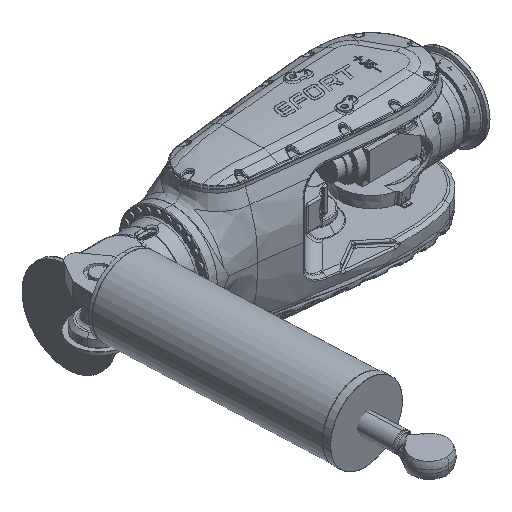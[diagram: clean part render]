
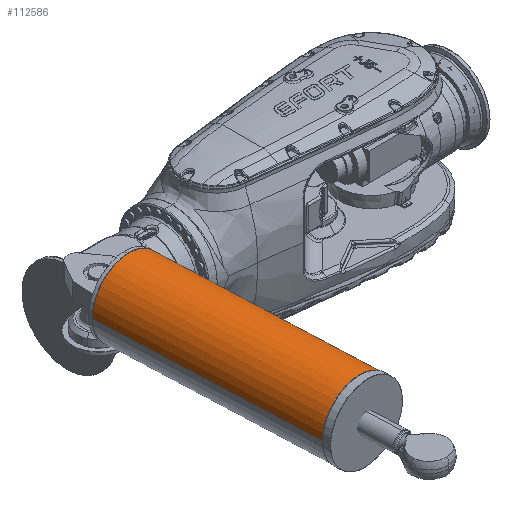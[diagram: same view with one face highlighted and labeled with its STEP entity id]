
A CAD part, isometric view. The second image highlights one B-rep face of the part: STEP entity #112586.
In plain terms, the highlighted cylindrical face has radius 116 mm (diameter 232 mm), a partial arc.
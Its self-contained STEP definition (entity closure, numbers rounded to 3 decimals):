
#2531 = EDGE_CURVE ( 'NONE', #33549, #136696, #50112, .T. ) ;
#4232 = CARTESIAN_POINT ( 'NONE',  ( 444.365, 0., -24.5 ) ) ;
#9103 = CARTESIAN_POINT ( 'NONE',  ( -244.635, 0., -24.5 ) ) ;
#10306 = AXIS2_PLACEMENT_3D ( 'NONE', #176399, #73961, #75081 ) ;
#17331 = DIRECTION ( 'NONE',  ( 1., 0., 0. ) ) ;
#24520 = CARTESIAN_POINT ( 'NONE',  ( -244.635, 116., -24.5 ) ) ;
#24967 = FACE_OUTER_BOUND ( 'NONE', #54481, .T. ) ;
#33549 = VERTEX_POINT ( 'NONE', #24520 ) ;
#36251 = CARTESIAN_POINT ( 'NONE',  ( 444.865, -116., -24.5 ) ) ;
#37351 = DIRECTION ( 'NONE',  ( 1., 0., 0. ) ) ;
#50112 = CIRCLE ( 'NONE', #108286, 116. ) ;
#54481 = EDGE_LOOP ( 'NONE', ( #58890, #218654, #76710, #135035 ) ) ;
#57760 = DIRECTION ( 'NONE',  ( -1., 0., 0. ) ) ;
#58890 = ORIENTED_EDGE ( 'NONE', *, *, #2531, .T. ) ;
#58889 = DIRECTION ( 'NONE',  ( 0., 1., 0. ) ) ;
#63450 = EDGE_CURVE ( 'NONE', #136696, #197706, #104552, .T. ) ;
#73803 = EDGE_CURVE ( 'NONE', #197706, #213854, #134372, .T. ) ;
#73961 = DIRECTION ( 'NONE',  ( 1., 0., 0. ) ) ;
#75081 = DIRECTION ( 'NONE',  ( 0., 1., 0. ) ) ;
#75121 = CARTESIAN_POINT ( 'NONE',  ( -244.635, -116., -24.5 ) ) ;
#76710 = ORIENTED_EDGE ( 'NONE', *, *, #73803, .T. ) ;
#85850 = CARTESIAN_POINT ( 'NONE',  ( 444.365, 116., -24.5 ) ) ;
#86112 = EDGE_CURVE ( 'NONE', #33549, #213854, #171042, .T. ) ;
#104552 = LINE ( 'NONE', #36251, #113380 ) ;
#108286 = AXIS2_PLACEMENT_3D ( 'NONE', #9103, #161653, #126373 ) ;
#112586 = ADVANCED_FACE ( 'NONE', ( #24967 ), #160427, .T. ) ;
#113380 = VECTOR ( 'NONE', #37351, 1000. ) ;
#126373 = DIRECTION ( 'NONE',  ( 0., 1., 0. ) ) ;
#134372 = CIRCLE ( 'NONE', #203410, 116. ) ;
#135035 = ORIENTED_EDGE ( 'NONE', *, *, #86112, .F. ) ;
#136696 = VERTEX_POINT ( 'NONE', #75121 ) ;
#160427 = CYLINDRICAL_SURFACE ( 'NONE', #10306, 116. ) ;
#161653 = DIRECTION ( 'NONE',  ( 1., 0., 0. ) ) ;
#171042 = LINE ( 'NONE', #221164, #224456 ) ;
#176399 = CARTESIAN_POINT ( 'NONE',  ( 444.865, 0., -24.5 ) ) ;
#197706 = VERTEX_POINT ( 'NONE', #211200 ) ;
#203410 = AXIS2_PLACEMENT_3D ( 'NONE', #4232, #57760, #58889 ) ;
#211200 = CARTESIAN_POINT ( 'NONE',  ( 444.365, -116., -24.5 ) ) ;
#213854 = VERTEX_POINT ( 'NONE', #85850 ) ;
#218654 = ORIENTED_EDGE ( 'NONE', *, *, #63450, .T. ) ;
#221164 = CARTESIAN_POINT ( 'NONE',  ( 444.865, 116., -24.5 ) ) ;
#224456 = VECTOR ( 'NONE', #17331, 1000. ) ;
